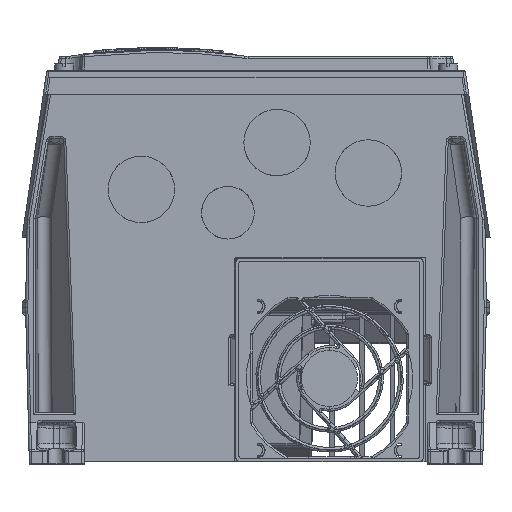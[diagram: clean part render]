
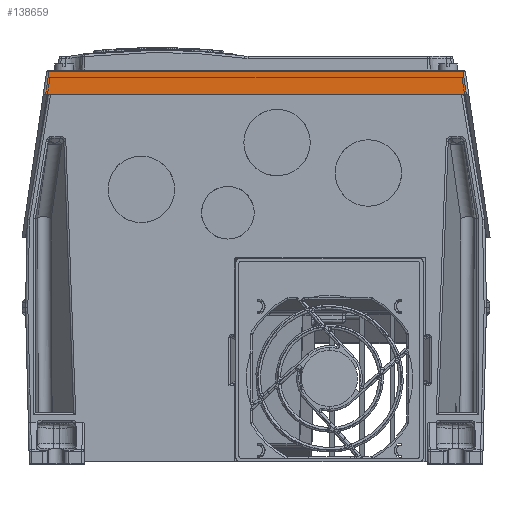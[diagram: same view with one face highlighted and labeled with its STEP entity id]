
A CAD part, front view. The second image highlights one B-rep face of the part: STEP entity #138659.
In plain terms, the highlighted planar face has unit normal (0, -1, 0.018).
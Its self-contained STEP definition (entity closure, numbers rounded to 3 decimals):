
#17584=CARTESIAN_POINT('',(88.458,-195.731,
71.605));
#17594=CARTESIAN_POINT('',(-89.895,-195.9,61.9));
#17600=DIRECTION('',(1.,0.,0.));
#17601=VECTOR('',#17600,179.791);
#17602=CARTESIAN_POINT('',(-89.895,-195.9,61.9));
#17603=LINE('',#17602,#17601);
#17608=CARTESIAN_POINT('',(89.895,-195.9,61.9));
#44946=DIRECTION('',(-1.,0.,0.));
#44947=VECTOR('',#44946,176.915);
#44948=CARTESIAN_POINT('',(88.458,-195.731,
71.605));
#44949=LINE('',#44948,#44947);
#44950=DIRECTION('',(0.147,-0.017,-0.989));
#44951=VECTOR('',#44950,9.813);
#44952=CARTESIAN_POINT('',(88.458,-195.731,
71.605));
#44953=LINE('',#44952,#44951);
#44954=DIRECTION('',(0.147,0.017,0.989));
#44955=VECTOR('',#44954,9.813);
#44956=CARTESIAN_POINT('',(-89.895,-195.9,61.9));
#44957=LINE('',#44956,#44955);
#52148=VERTEX_POINT('',#17608);
#52149=VERTEX_POINT('',#17594);
#52225=VERTEX_POINT('',#17584);
#52228=CARTESIAN_POINT('',(-88.458,-195.731,
71.605));
#52229=VERTEX_POINT('',#52228);
#138648=CARTESIAN_POINT('',(-93.442,-195.726,71.9));
#138649=DIRECTION('',(0.,-1.,0.017));
#138650=DIRECTION('',(0.,-0.017,-1.));
#138651=AXIS2_PLACEMENT_3D('',#138648,#138649,#138650);
#138652=PLANE('',#138651);
#138653=ORIENTED_EDGE('',*,*,#138640,.F.);
#138654=ORIENTED_EDGE('',*,*,#90064,.T.);
#138655=ORIENTED_EDGE('',*,*,#90085,.F.);
#138656=ORIENTED_EDGE('',*,*,#138555,.T.);
#138657=EDGE_LOOP('',(#138653,#138654,#138655,#138656));
#138658=FACE_OUTER_BOUND('',#138657,.F.);
#90064=EDGE_CURVE('',#52225,#52148,#44953,.T.);
#90085=EDGE_CURVE('',#52149,#52148,#17603,.T.);
#138555=EDGE_CURVE('',#52149,#52229,#44957,.T.);
#138640=EDGE_CURVE('',#52225,#52229,#44949,.T.);
#138659=ADVANCED_FACE('',(#138658),#138652,.T.);
